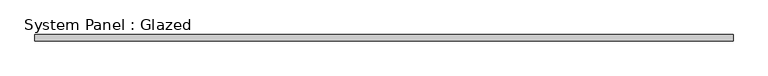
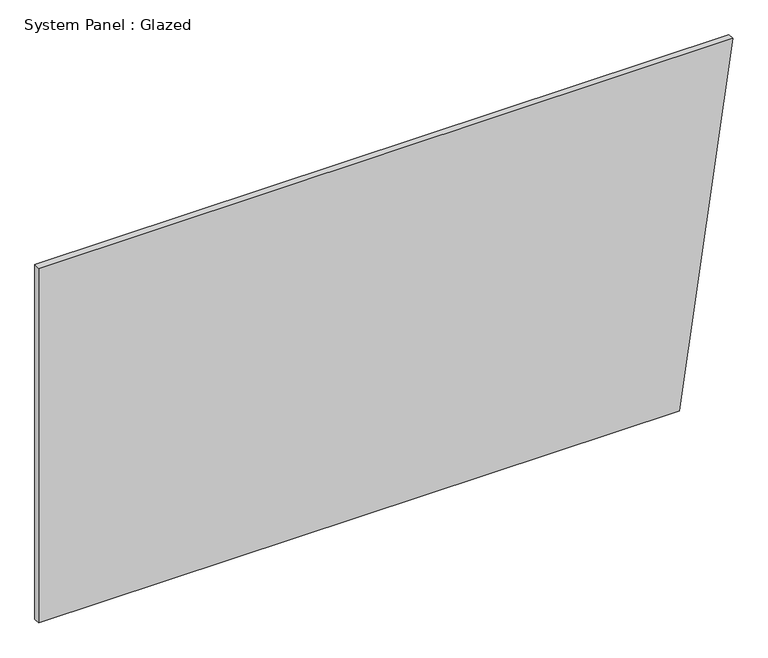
"""IFC4 building model written with IfcOpenShell, lengths in millimetres: plate geometry, System Panel : Glazed."""

from ifc_helpers import new_model, si_unit, frame, origin, place, context, project, spatial, polyline, outline, extrude, source, transform, mapped, element, save


def system_panel_glazed_140b35c1(model_context):
    return source(origin(), model_context, "Body", "SweptSolid", [
        extrude(outline(polyline([(0.0, -1410.7948081), (0.0, 1193.749453), (1524.0, 1410.7948081), (1524.0, -1410.7948081), (0.0, -1410.7948081)])), frame((0.0, 19.05, 0.0), z_axis=(0.0, 1.0, 0.0), x_axis=(0.0, 0.0, 1.0)), (0.0, 0.0, 1.0), 25.4),
    ])


if __name__ == "__main__":
    model = new_model("IFC4")
    model_context = context("Model", 3, world=origin())
    ifc_project = project(units=[si_unit("LENGTHUNIT", "METRE", prefix="MILLI")], contexts=[model_context])
    site = spatial("IfcSite", under=ifc_project)
    building = spatial("IfcBuilding", under=site)
    placement = place(None, origin())
    system_panel_glazed_shape = system_panel_glazed_140b35c1(model_context)
    element("IfcPlate", 1, ObjectType="System Panel : Glazed", at=placement, inside=building, context=model_context, shape_type="MappedRepresentation", body=[
        mapped(system_panel_glazed_shape, transform((0.0, 0.0, 0.0), x_axis=(1.0, 0.0, 0.0), y_axis=(0.0, 1.0, 0.0), z_axis=(0.0, 0.0, 1.0))),
    ])
    save(model, "model.ifc")
